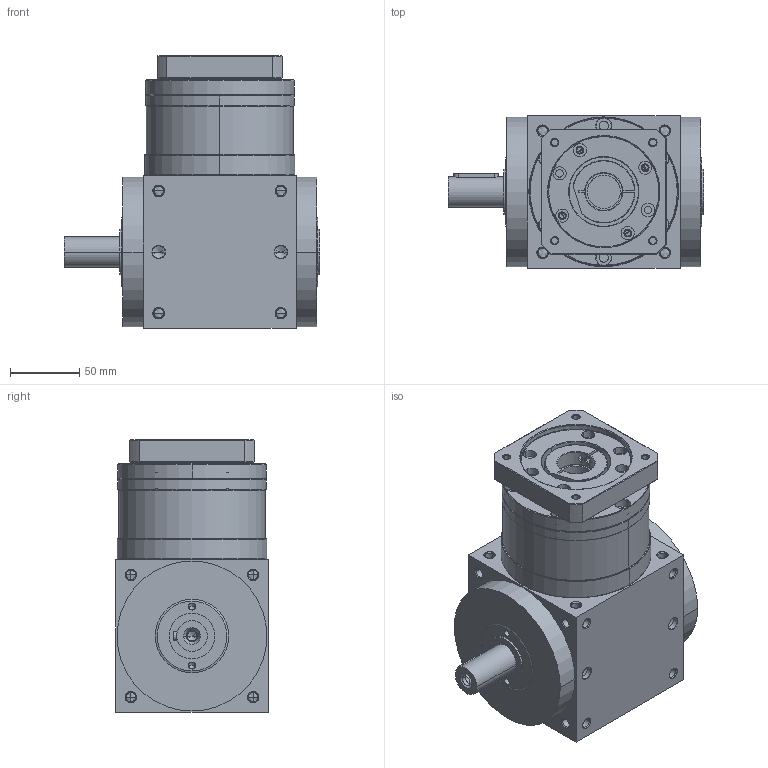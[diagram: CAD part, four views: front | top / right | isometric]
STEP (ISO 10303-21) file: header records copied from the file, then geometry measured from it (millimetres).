
FILE_DESCRIPTION((''),'2;1');
FILE_NAME('ATB110FL11-P0403300603_ASM','2014-07-28T',('d01707'),(''),'PRO/ENGINEER BY PARAMETRIC TECHNOLOGY CORPORATION, 2008410','PRO/ENGINEER BY PARAMETRIC TECHNOLOGY CORPORATION, 2008410','');
FILE_SCHEMA(('CONFIG_CONTROL_DESIGN'));
Length unit declared in the file: millimetre
Products named in the file (6): ATB110FL1-A; P1820500001; P1502500001; P0501300101; P0403300603; ATB110FL11-P0403300603_ASM
Assembly tree (5 placements, depth 2):
  ATB110FL11-P0403300603_ASM
    ATB110FL1-A
    P1820500001
    P1502500001
    P0501300101
    P0403300603
Bounding box: 184 x 110 x 196.5 mm (x, y, z)
Volume: 2071097.8 mm3; surface area: 223708.3 mm2
Topology: 5 solids, 48 shells, 798 faces, 1999 edges, 1212 vertices
Faces by surface type: cylinder 370, cone 274, plane 122, torus 32
Entity records: 24670 total; most frequent: CARTESIAN_POINT 5309, DIRECTION 4360, ORIENTED_EDGE 3670, EDGE_CURVE 1921, AXIS2_PLACEMENT_3D 1834, VERTEX_POINT 1212, CIRCLE 1015, EDGE_LOOP 979
